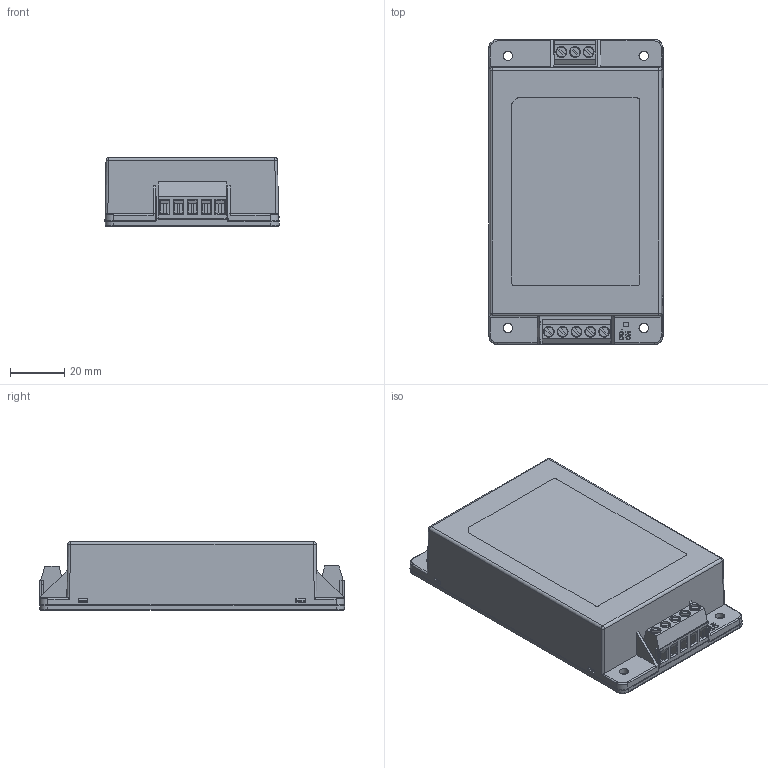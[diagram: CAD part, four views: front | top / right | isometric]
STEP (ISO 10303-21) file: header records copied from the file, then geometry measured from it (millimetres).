
FILE_DESCRIPTION (( 'STEP AP214' ), '1' );
FILE_NAME ('DTE40.STEP', '2017-01-09T15:11:08', ( '' ), ( '' ), 'SwSTEP 2.0', 'SolidWorks 2016', '' );
FILE_SCHEMA (( 'AUTOMOTIVE_DESIGN' ));
Length unit declared in the file: inch
Products named in the file (7): DTE40; Connect(3PIN); Connect(5PIN); DTE40 BASE; DTE40 CASE; DTE40 CASE_2
Assembly tree (6 placements, depth 3):
  DTE40
    DTE40 CASE
      DTE40 CASE
      DTE40 CASE_2
    DTE40 BASE
    Connect(5PIN)
    Connect(3PIN)
Bounding box: 63.96 x 112.06 x 25.28 mm (x, y, z)
Volume: 121793.3 mm3; surface area: 44045.3 mm2
Topology: 5 solids, 5 shells, 658 faces, 1715 edges, 1130 vertices
Faces by surface type: plane 456, cylinder 160, bspline 40, cone 2
Entity records: 30146 total; most frequent: CARTESIAN_POINT 5090, ORIENTED_EDGE 3426, DIRECTION 3167, EDGE_CURVE 1713, VECTOR 1323, LINE 1323, VERTEX_POINT 1130, AXIS2_PLACEMENT_3D 922
